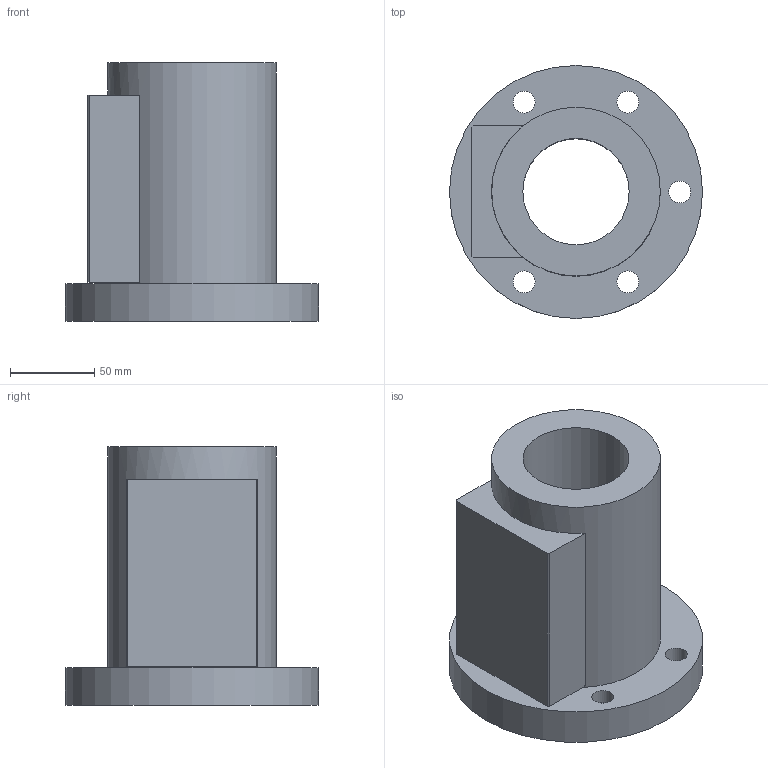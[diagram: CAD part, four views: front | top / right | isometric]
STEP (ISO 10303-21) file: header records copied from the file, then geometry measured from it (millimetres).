
FILE_DESCRIPTION(/* description */ (''),/* implementation_level */ '2;1');
FILE_NAME(/* name */ '63-16B2',/* time_stamp */ '2006-07-31T11:57:23+08:00',/* author */ (''),/* organization */ (''),/* preprocessor_version */ 'ST-DEVELOPER v9',/* originating_system */ 'UGS - NX 4.0',/* authorisation */ '');
FILE_SCHEMA (('CONFIG_CONTROL_DESIGN'));
Length unit declared in the file: millimetre
Products named in the file (1): 63-16B2
Bounding box: 150 x 150 x 153 mm (x, y, z)
Volume: 1067277.1 mm3; surface area: 123678.1 mm2
Topology: 1 solids, 1 shells, 28 faces, 61 edges, 42 vertices
Faces by surface type: plane 15, cylinder 13
Full cylindrical faces by diameter (mm): 13 x5, 20 x5, 63 x1, 100 x1, 150 x1
Entity records: 794 total; most frequent: DIRECTION 130, CARTESIAN_POINT 111, ORIENTED_EDGE 88, EDGE_LOOP 60, AXIS2_PLACEMENT_3D 57, FACE_BOUND 45, EDGE_CURVE 44, VERTEX_POINT 38
